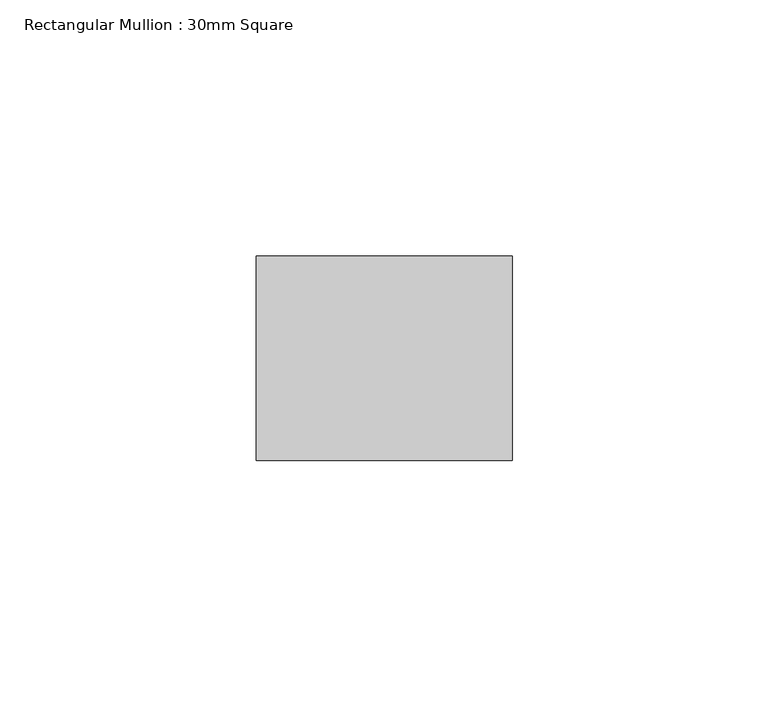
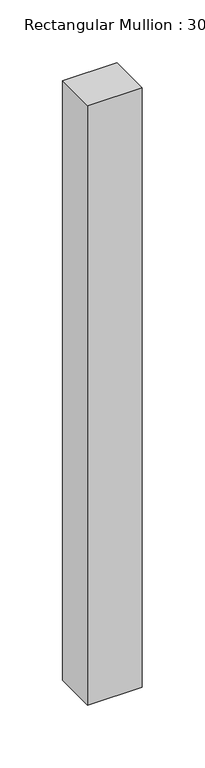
"""IFC4 building model written with IfcOpenShell, lengths in millimetres: member geometry, Rectangular Mullion : 30mm Square."""

from ifc_helpers import new_model, si_unit, frame, origin, place, context, project, spatial, polyline, outline, extrude, source, transform, mapped, element, save


def rectangular_mullion_30mm_square_0d12583d(model_context):
    return source(origin(), model_context, "Body", "SweptSolid", [
        extrude(outline(polyline([(0.0, 20.0), (0.0, -20.0), (-50.0, -20.0), (-50.0, 20.0), (0.0, 20.0)])), frame((0.0, 0.0, -582.1900063), z_axis=(0.0, 0.0, 1.0), x_axis=(1.0, 0.0, 0.0)), (0.0, 0.0, 1.0), 582.1900063),
    ])


if __name__ == "__main__":
    model = new_model("IFC4")
    model_context = context("Model", 3, world=origin())
    ifc_project = project(units=[si_unit("LENGTHUNIT", "METRE", prefix="MILLI")], contexts=[model_context])
    site = spatial("IfcSite", under=ifc_project)
    building = spatial("IfcBuilding", under=site)
    placement = place(None, origin())
    rectangular_mullion_30mm_square_shape = rectangular_mullion_30mm_square_0d12583d(model_context)
    element("IfcMember", 1, ObjectType="Rectangular Mullion : 30mm Square", at=placement, inside=building, context=model_context, shape_type="MappedRepresentation", body=[
        mapped(rectangular_mullion_30mm_square_shape, transform((0.0, 0.0, 0.0), x_axis=(1.0, 0.0, 0.0), y_axis=(0.0, 1.0, 0.0), z_axis=(0.0, 0.0, 1.0))),
    ])
    save(model, "model.ifc")
